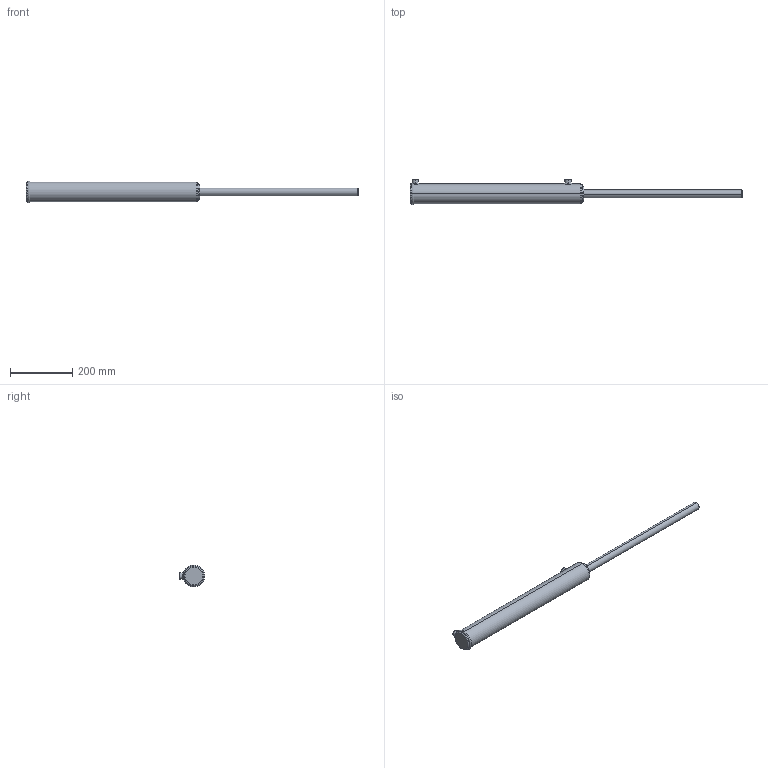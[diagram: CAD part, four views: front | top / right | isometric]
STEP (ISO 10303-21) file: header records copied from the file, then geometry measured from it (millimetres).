
FILE_DESCRIPTION (( 'STEP AP203' ), '1' );
FILE_NAME ('BL200100X457 (18) extended.STEP', '2014-11-23T21:08:31', ( '' ), ( '' ), 'SwSTEP 2.0', 'SolidWorks 2014', '' );
FILE_SCHEMA (( 'CONFIG_CONTROL_DESIGN' ));
Length unit declared in the file: millimetre
Products named in the file (3): BL body 2_2x18; Spare_2x18; BL200100X457 (18) extended
Assembly tree (2 placements, depth 2):
  BL200100X457 (18) extended
    BL body 2_2x18
    Spare_2x18
Bounding box: 1065 x 81.5 x 69.5 mm (x, y, z)
Volume: 1944644.2 mm3; surface area: 190689.6 mm2
Topology: 2 solids, 2 shells, 83 faces, 192 edges, 118 vertices
Faces by surface type: cylinder 31, plane 20, torus 17, cone 8, bspline 7
Entity records: 4855 total; most frequent: CARTESIAN_POINT 2688, DIRECTION 416, ORIENTED_EDGE 376, EDGE_CURVE 188, AXIS2_PLACEMENT_3D 179, VERTEX_POINT 118, CIRCLE 98, EDGE_LOOP 96
